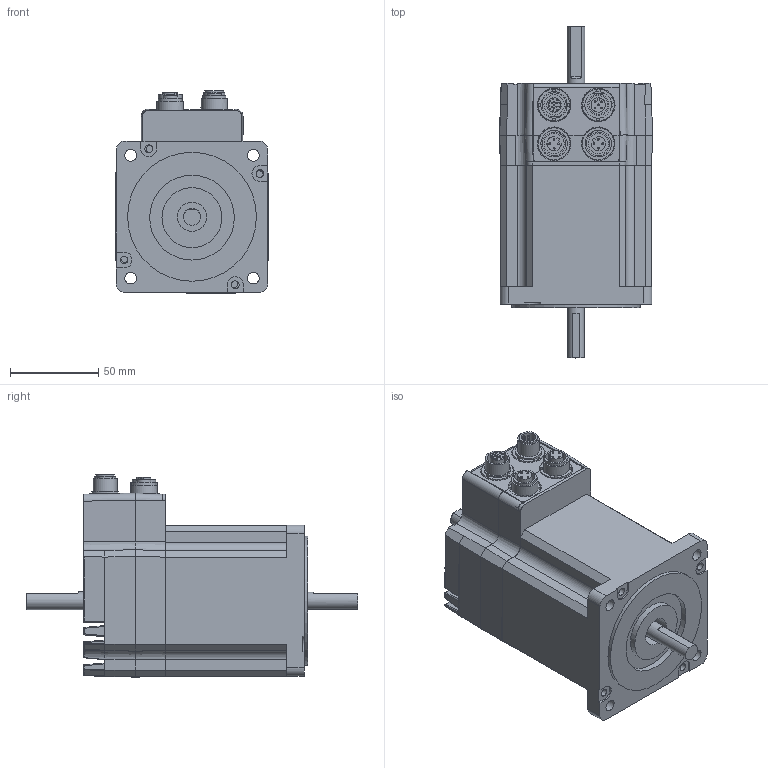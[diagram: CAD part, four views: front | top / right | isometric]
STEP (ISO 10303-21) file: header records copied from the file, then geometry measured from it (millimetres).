
FILE_DESCRIPTION( ( 'Unknown' ), '1' );
FILE_NAME( 'K:/JVL/MISxx/MIS34x/CAD internet tegninger/STEP/STEP/Ver 1_13/MIS341C13xxxx85.stp', 'Unknown', ( 'Unknown' ), ( 'Unknown' ), 'PSStep 11.0', 'Unknown', ' ' );
FILE_SCHEMA( ( 'AUTOMOTIVE_DESIGN { 1 0 10303 214 1 1 1 1 }' ) );
Length unit declared in the file: millimetre
Products named in the file (5): MIS341 single shaft motor
Bounding box: 86.5 x 188.1 x 114.56 mm (x, y, z)
Volume: 846738.2 mm3; surface area: 104981.4 mm2
Topology: 5 solids, 6 shells, 1061 faces, 2530 edges, 1556 vertices
Faces by surface type: plane 486, cylinder 424, sphere 109, cone 19, bspline 15, torus 8
Full cylindrical faces by diameter (mm): 0.7 x17, 1 x17, 3 x5, 4.3 x4, 4.4 x4, 6.6 x4, 8.2 x1, 9.53 x1, 10 x1, 10.6 x1, 11.5 x3, 12 x1, 13.3 x2, 13.6 x1, 16 x1, 16.5 x1, 18 x4, 19 x6, 34 x1, 48 x1, 73 x1
Entity records: 39031 total; most frequent: CARTESIAN_POINT 5873, DIRECTION 5390, ORIENTED_EDGE 4828, EDGE_CURVE 2414, AXIS2_PLACEMENT_3D 1983, VERTEX_POINT 1526, LINE 1424, VECTOR 1424
